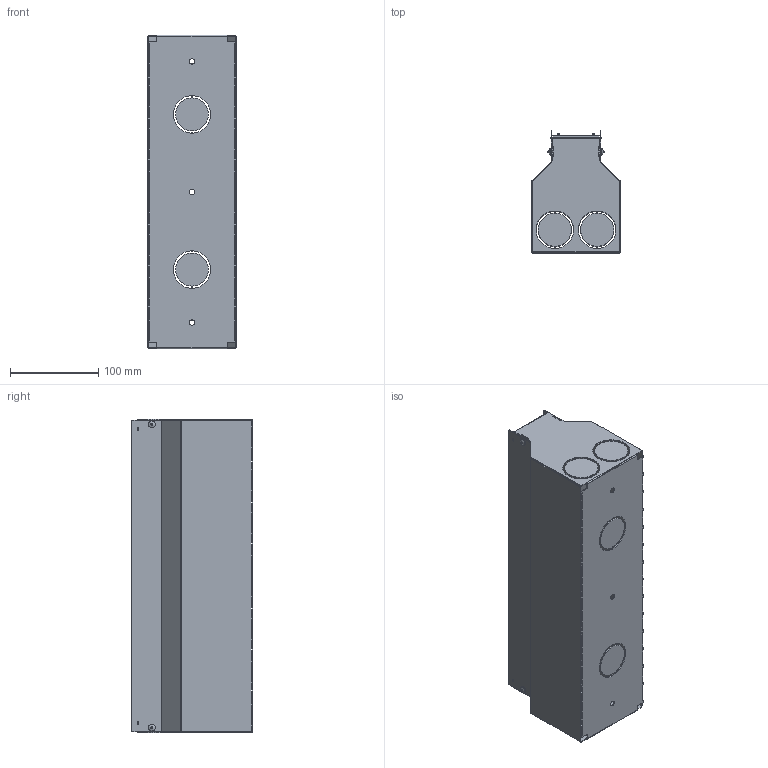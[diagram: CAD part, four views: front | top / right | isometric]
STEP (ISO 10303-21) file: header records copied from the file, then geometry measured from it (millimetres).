
FILE_DESCRIPTION(/* description */ ('Unknown'),/* implementation_level */ '2;1');
FILE_NAME(/* name */ 'E98671',/* time_stamp */ '2023-02-07T09:06:50+01:00',/* author */ ('Unknown'),/* organization */ ('Unknown'),/* preprocessor_version */ 'ST-DEVELOPER v18.1',/* originating_system */ 'Solid Edge',/* authorisation */ 'Unknown');
FILE_SCHEMA (('AUTOMOTIVE_DESIGN {1 0 10303 214 3 1 1}'));
Length unit declared in the file: millimetre
Products named in the file (1): E98671
Bounding box: 100.2 x 138.27 x 356 mm (x, y, z)
Volume: 160765.4 mm3; surface area: 324439.3 mm2
Topology: 1 solids, 1 shells, 544 faces, 1807 edges, 1206 vertices
Faces by surface type: plane 309, cylinder 208, torus 18, sphere 6, cone 3
Full cylindrical faces by diameter (mm): 3 x2, 3.242 x1, 3.5 x4, 3.8 x4, 4.5 x8, 6 x7, 7.8 x4
Entity records: 23214 total; most frequent: CARTESIAN_POINT 3429, ORIENTED_EDGE 3422, DIRECTION 3240, EDGE_CURVE 1711, LINE 1272, VECTOR 1272, VERTEX_POINT 1173, AXIS2_PLACEMENT_3D 984
